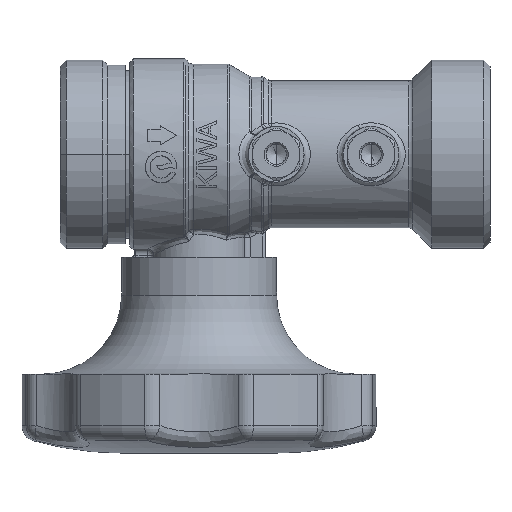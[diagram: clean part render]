
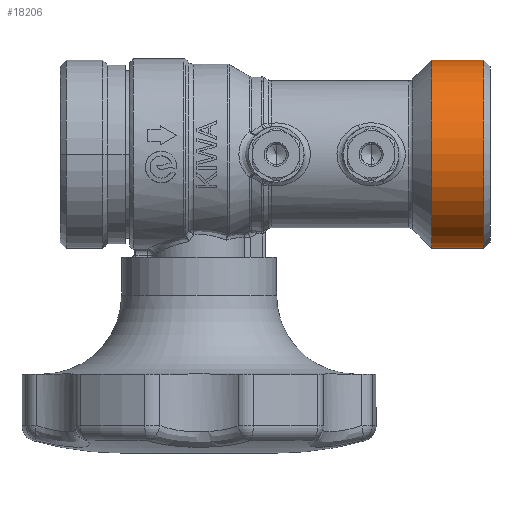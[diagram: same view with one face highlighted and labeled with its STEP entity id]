
A CAD part, front view. The second image highlights one B-rep face of the part: STEP entity #18206.
In plain terms, the highlighted cylindrical face has radius 29.8 mm (diameter 59.6 mm), a partial arc.
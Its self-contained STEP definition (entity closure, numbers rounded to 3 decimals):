
#3348 = DIRECTION ( 'NONE',  ( 0., 0., 1. ) ) ;
#4000 = EDGE_CURVE ( 'NONE', #40887, #18759, #30963, .T. ) ;
#4137 = CARTESIAN_POINT ( 'NONE',  ( 73.55, 0., 29.8 ) ) ;
#4781 = EDGE_CURVE ( 'NONE', #40887, #23987, #11605, .T. ) ;
#6197 = EDGE_CURVE ( 'NONE', #18759, #40104, #12985, .T. ) ;
#6346 = ORIENTED_EDGE ( 'NONE', *, *, #28641, .F. ) ;
#6778 = CARTESIAN_POINT ( 'NONE',  ( 90., 0., 0. ) ) ;
#7390 = CARTESIAN_POINT ( 'NONE',  ( 90., 0., 29.8 ) ) ;
#8620 = AXIS2_PLACEMENT_3D ( 'NONE', #23177, #16513, #10333 ) ;
#9666 = EDGE_LOOP ( 'NONE', ( #10263, #29410, #13083, #6346 ) ) ;
#9875 = DIRECTION ( 'NONE',  ( -1., 0., 0. ) ) ;
#10263 = ORIENTED_EDGE ( 'NONE', *, *, #4781, .F. ) ;
#10333 = DIRECTION ( 'NONE',  ( 0., 0., 1. ) ) ;
#10796 = CYLINDRICAL_SURFACE ( 'NONE', #8620, 29.8 ) ;
#11291 = CARTESIAN_POINT ( 'NONE',  ( 73.55, 0., -29.8 ) ) ;
#11605 = LINE ( 'NONE', #38819, #33911 ) ;
#12917 = CARTESIAN_POINT ( 'NONE',  ( 90., 0., -29.8 ) ) ;
#12985 = LINE ( 'NONE', #30595, #19937 ) ;
#13083 = ORIENTED_EDGE ( 'NONE', *, *, #6197, .T. ) ;
#16124 = CARTESIAN_POINT ( 'NONE',  ( 73.55, 0., 0. ) ) ;
#16131 = DIRECTION ( 'NONE',  ( -1., 0., 0. ) ) ;
#16513 = DIRECTION ( 'NONE',  ( -1., 0., 0. ) ) ;
#17262 = DIRECTION ( 'NONE',  ( 0., 0., -1. ) ) ;
#18206 = ADVANCED_FACE ( 'NONE', ( #39063 ), #10796, .T. ) ;
#18759 = VERTEX_POINT ( 'NONE', #7390 ) ;
#19937 = VECTOR ( 'NONE', #39454, 1000. ) ;
#23177 = CARTESIAN_POINT ( 'NONE',  ( 140., 0., 0. ) ) ;
#23987 = VERTEX_POINT ( 'NONE', #11291 ) ;
#26640 = AXIS2_PLACEMENT_3D ( 'NONE', #6778, #16131, #3348 ) ;
#28641 = EDGE_CURVE ( 'NONE', #23987, #40104, #39354, .T. ) ;
#29410 = ORIENTED_EDGE ( 'NONE', *, *, #4000, .T. ) ;
#30040 = DIRECTION ( 'NONE',  ( -1., 0., 0. ) ) ;
#30595 = CARTESIAN_POINT ( 'NONE',  ( 140., 0., 29.8 ) ) ;
#30963 = CIRCLE ( 'NONE', #26640, 29.8 ) ;
#33911 = VECTOR ( 'NONE', #9875, 1000. ) ;
#34168 = AXIS2_PLACEMENT_3D ( 'NONE', #16124, #30040, #17262 ) ;
#38819 = CARTESIAN_POINT ( 'NONE',  ( 140., 0., -29.8 ) ) ;
#39063 = FACE_OUTER_BOUND ( 'NONE', #9666, .T. ) ;
#39354 = CIRCLE ( 'NONE', #34168, 29.8 ) ;
#39454 = DIRECTION ( 'NONE',  ( -1., 0., 0. ) ) ;
#40104 = VERTEX_POINT ( 'NONE', #4137 ) ;
#40887 = VERTEX_POINT ( 'NONE', #12917 ) ;
